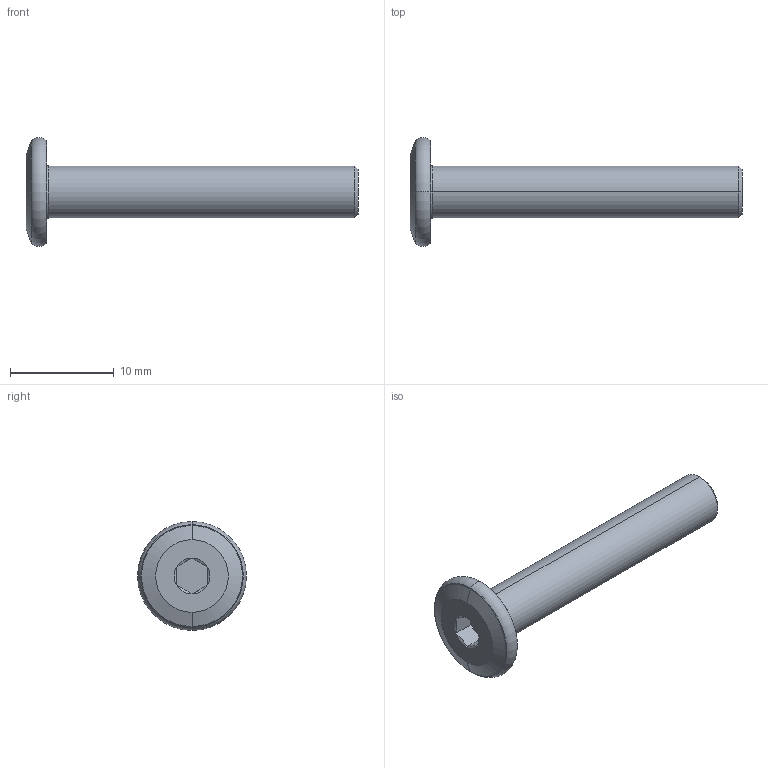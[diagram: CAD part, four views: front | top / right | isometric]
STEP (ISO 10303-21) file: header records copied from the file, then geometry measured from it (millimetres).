
FILE_DESCRIPTION (( 'STEP AP203' ), '1' );
FILE_NAME ('LGD-304D-M5x30.STEP', '2026-08-13T07:30:01', ( '' ), ( '' ), 'SwSTEP 2.0', 'SolidWorks 2020', '' );
FILE_SCHEMA (( 'CONFIG_CONTROL_DESIGN' ));
Length unit declared in the file: millimetre
Products named in the file (1): LGD-304D-M5x30
Bounding box: 32 x 10.5 x 10.5 mm (x, y, z)
Volume: 725.7 mm3; surface area: 695.4 mm2
Topology: 1 solids, 1 shells, 30 faces, 56 edges, 30 vertices
Faces by surface type: cone 10, plane 10, torus 8, cylinder 2
Entity records: 835 total; most frequent: CARTESIAN_POINT 151, DIRECTION 144, ORIENTED_EDGE 112, AXIS2_PLACEMENT_3D 63, EDGE_CURVE 56, EDGE_LOOP 32, CIRCLE 32, FACE_OUTER_BOUND 30
